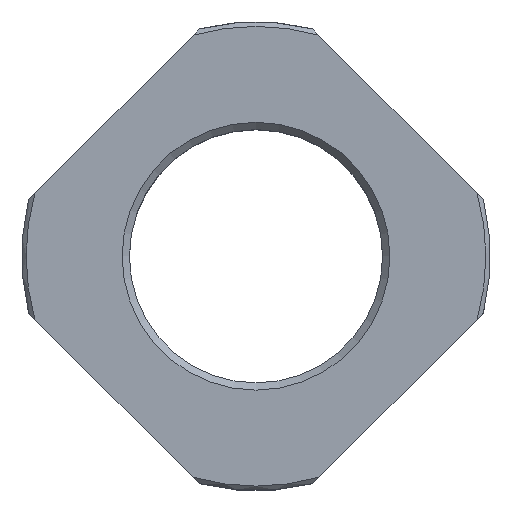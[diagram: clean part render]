
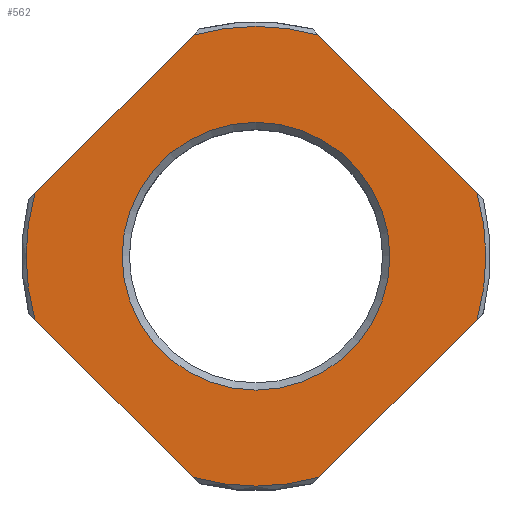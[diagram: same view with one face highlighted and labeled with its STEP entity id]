
A CAD part, top view. The second image highlights one B-rep face of the part: STEP entity #562.
In plain terms, the highlighted planar face has unit normal (0, 0, 1).
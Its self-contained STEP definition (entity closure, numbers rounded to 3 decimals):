
#32=PLANE('',#617);
#50=LINE('',#878,#84);
#51=LINE('',#882,#85);
#52=LINE('',#886,#86);
#53=LINE('',#890,#87);
#84=VECTOR('',#697,1000.);
#85=VECTOR('',#700,1000.);
#86=VECTOR('',#703,1000.);
#87=VECTOR('',#706,1000.);
#146=ORIENTED_EDGE('',*,*,#300,.F.);
#147=ORIENTED_EDGE('',*,*,#301,.T.);
#148=ORIENTED_EDGE('',*,*,#302,.F.);
#149=ORIENTED_EDGE('',*,*,#303,.T.);
#150=ORIENTED_EDGE('',*,*,#304,.F.);
#151=ORIENTED_EDGE('',*,*,#305,.T.);
#152=ORIENTED_EDGE('',*,*,#306,.F.);
#153=ORIENTED_EDGE('',*,*,#307,.T.);
#154=ORIENTED_EDGE('',*,*,#308,.T.);
#300=EDGE_CURVE('',#378,#379,#430,.T.);
#301=EDGE_CURVE('',#378,#380,#50,.T.);
#302=EDGE_CURVE('',#381,#380,#431,.T.);
#303=EDGE_CURVE('',#381,#382,#51,.T.);
#304=EDGE_CURVE('',#383,#382,#432,.T.);
#305=EDGE_CURVE('',#383,#384,#52,.T.);
#306=EDGE_CURVE('',#385,#384,#433,.T.);
#307=EDGE_CURVE('',#385,#379,#53,.T.);
#308=EDGE_CURVE('',#386,#386,#434,.T.);
#378=VERTEX_POINT('',#876);
#379=VERTEX_POINT('',#877);
#380=VERTEX_POINT('',#879);
#381=VERTEX_POINT('',#881);
#382=VERTEX_POINT('',#883);
#383=VERTEX_POINT('',#885);
#384=VERTEX_POINT('',#887);
#385=VERTEX_POINT('',#889);
#386=VERTEX_POINT('',#892);
#430=CIRCLE('',#618,17.17);
#431=CIRCLE('',#619,17.17);
#432=CIRCLE('',#620,17.17);
#433=CIRCLE('',#621,17.17);
#434=CIRCLE('',#622,10.);
#459=EDGE_LOOP('',(#146,#147,#148,#149,#150,#151,#152,#153));
#460=EDGE_LOOP('',(#154));
#509=FACE_BOUND('',#459,.T.);
#510=FACE_BOUND('',#460,.T.);
#562=ADVANCED_FACE('',(#509,#510),#32,.F.);
#617=AXIS2_PLACEMENT_3D('',#874,#693,#694);
#618=AXIS2_PLACEMENT_3D('',#875,#695,#696);
#619=AXIS2_PLACEMENT_3D('',#880,#698,#699);
#620=AXIS2_PLACEMENT_3D('',#884,#701,#702);
#621=AXIS2_PLACEMENT_3D('',#888,#704,#705);
#622=AXIS2_PLACEMENT_3D('',#891,#707,#708);
#693=DIRECTION('',(0.,0.,-1.));
#694=DIRECTION('',(-1.,0.,0.));
#695=DIRECTION('',(0.,0.,-1.));
#696=DIRECTION('',(-1.,0.,0.));
#697=DIRECTION('',(-0.707,-0.707,0.));
#698=DIRECTION('',(0.,0.,-1.));
#699=DIRECTION('',(-1.,0.,0.));
#700=DIRECTION('',(0.707,-0.707,0.));
#701=DIRECTION('',(0.,0.,-1.));
#702=DIRECTION('',(-1.,0.,0.));
#703=DIRECTION('',(0.707,0.707,0.));
#704=DIRECTION('',(0.,0.,-1.));
#705=DIRECTION('',(-1.,0.,0.));
#706=DIRECTION('',(-0.707,0.707,0.));
#707=DIRECTION('',(0.,0.,-1.));
#708=DIRECTION('',(-1.,0.,0.));
#874=CARTESIAN_POINT('',(0.,0.,11.));
#875=CARTESIAN_POINT('',(0.,0.,11.));
#876=CARTESIAN_POINT('',(-4.699,16.515,11.));
#877=CARTESIAN_POINT('',(4.699,16.515,11.));
#878=CARTESIAN_POINT('',(0.,21.213,11.));
#879=CARTESIAN_POINT('',(-16.515,4.699,11.));
#880=CARTESIAN_POINT('',(0.,0.,11.));
#881=CARTESIAN_POINT('',(-16.515,-4.699,11.));
#882=CARTESIAN_POINT('',(-21.213,0.,11.));
#883=CARTESIAN_POINT('',(-4.699,-16.515,11.));
#884=CARTESIAN_POINT('',(0.,0.,11.));
#885=CARTESIAN_POINT('',(4.699,-16.515,11.));
#886=CARTESIAN_POINT('',(0.,-21.213,11.));
#887=CARTESIAN_POINT('',(16.515,-4.699,11.));
#888=CARTESIAN_POINT('',(0.,0.,11.));
#889=CARTESIAN_POINT('',(16.515,4.699,11.));
#890=CARTESIAN_POINT('',(21.213,0.,11.));
#891=CARTESIAN_POINT('',(0.,0.,11.));
#892=CARTESIAN_POINT('',(-10.,0.,11.));
